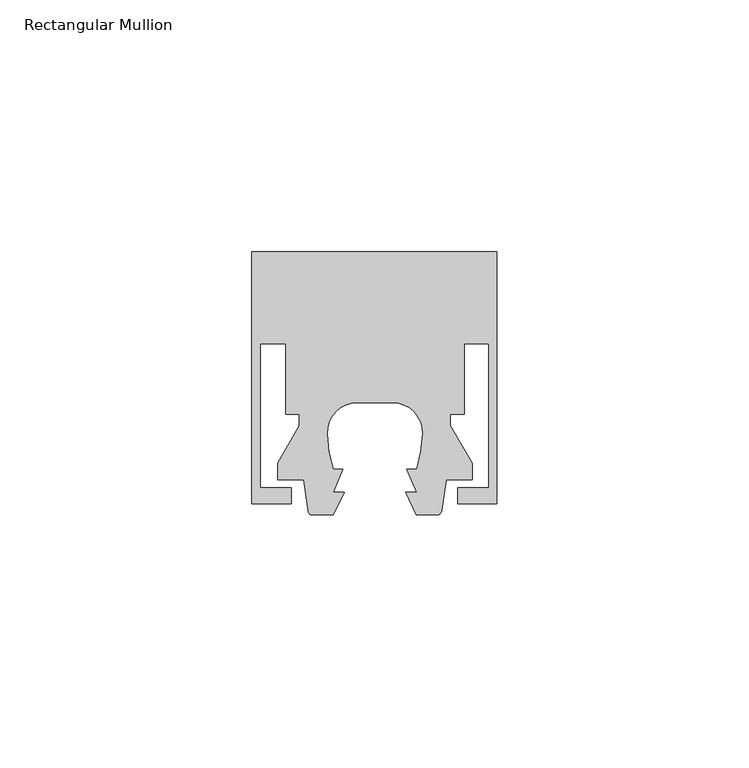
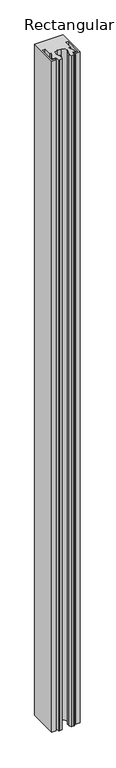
"""IFC4 building model written with IfcOpenShell, lengths in millimetres: member geometry, Rectangular Mullion : Danpal_Airpt."""

from ifc_helpers import new_model, si_unit, point, frame, frame_2d, origin, place, context, project, spatial, polyline, circle_curve, trimmed, segment, composite_curve, outline, extrude, source, transform, mapped, element, save


def rectangular_mullion_e34663cf(model_context):
    return source(origin(), model_context, "Body", "SweptSolid", [
        extrude(outline(composite_curve([segment(polyline([(-16.6, 16.4), (-24.4, 16.4), (-24.4, 66.4), (24.2, 66.4), (24.2, 16.4), (16.4, 16.4), (16.4, 19.6), (22.6, 19.6), (22.6, 48.2), (17.7185077, 48.2), (17.7185077, 34.2), (14.9766663, 34.2), (14.9766663, 31.9202845), (19.2732051, 24.478461), (19.3, 21.2), (14.115585, 21.2)]), True, "CONTINUOUS"), segment(trimmed(circle_curve(frame_2d((-137.1078499, 38.5534788)), 152.215868), [point((14.115585, 21.2))], [point((13.2922905, 15.1127399))], False, "CARTESIAN"), True, "CONTINUOUS"), segment(trimmed(circle_curve(frame_2d((12.2262756, 15.2788845)), 1.0788845), [point((13.2922905, 15.1127399))], [point((12.2262756, 14.2))], False, "CARTESIAN"), True, "CONTINUOUS"), segment(polyline([(12.2262756, 14.2), (8.2308667, 14.2), (6.0782659, 18.7006239), (8.2858815, 18.7006239), (6.3614697, 23.2699289), (8.2778534, 23.2699289)]), True, "CONTINUOUS"), segment(trimmed(circle_curve(frame_2d((-16.4332098, 31.142799)), 25.9348941), [point((8.2778534, 23.2699289))], [point((9.488241, 30.3078647))], True, "CARTESIAN"), True, "CONTINUOUS"), segment(trimmed(circle_curve(frame_2d((3.5093751, 30.500445)), 5.9819667), [point((9.488241, 30.3078647))], [point((3.5093751, 36.4824117))], True, "CARTESIAN"), True, "CONTINUOUS"), segment(polyline([(3.5093751, 36.4824117), (-3.5093751, 36.4824117)]), True, "CONTINUOUS"), segment(trimmed(circle_curve(frame_2d((-3.5093751, 30.500445)), 5.9819667), [point((-3.5093751, 36.4824117))], [point((-9.488241, 30.3078647))], True, "CARTESIAN"), True, "CONTINUOUS"), segment(trimmed(circle_curve(frame_2d((16.4332098, 31.142799)), 25.9348941), [point((-9.488241, 30.3078647))], [point((-8.2778534, 23.2699289))], True, "CARTESIAN"), True, "CONTINUOUS"), segment(polyline([(-8.2778534, 23.2699289), (-6.3614697, 23.2699289), (-8.2858815, 18.7006239), (-6.0782659, 18.7006239), (-8.2308667, 14.2), (-12.3738214, 14.2)]), True, "CONTINUOUS"), segment(trimmed(circle_curve(frame_2d((-12.3738214, 15.1064765)), 0.9064765), [point((-12.3738214, 14.2))], [point((-13.2693482, 14.9660083))], False, "CARTESIAN"), True, "CONTINUOUS"), segment(trimmed(circle_curve(frame_2d((137.1078499, 38.5534788)), 152.215868), [point((-13.2693482, 14.9660083))], [point((-14.115585, 21.2))], False, "CARTESIAN"), True, "CONTINUOUS"), segment(polyline([(-14.115585, 21.2), (-19.3, 21.2), (-19.2732051, 24.478461), (-14.9766663, 31.9202845), (-14.9766663, 34.2), (-17.7185077, 34.2), (-17.7185077, 48.2), (-22.8, 48.2), (-22.8, 19.6), (-16.6, 19.6), (-16.6, 16.4)]), True, "CONTINUOUS")], self_intersect=False)), frame((0.0, 0.0, -1206.8622452), z_axis=(0.0, 0.0, 1.0), x_axis=(1.0, 0.0, 0.0)), (0.0, 0.0, 1.0), 1206.8622452),
    ])


if __name__ == "__main__":
    model = new_model("IFC4")
    model_context = context("Model", 3, world=origin())
    ifc_project = project(units=[si_unit("LENGTHUNIT", "METRE", prefix="MILLI")], contexts=[model_context])
    site = spatial("IfcSite", under=ifc_project)
    building = spatial("IfcBuilding", under=site)
    placement = place(None, origin())
    rectangular_mullion_shape = rectangular_mullion_e34663cf(model_context)
    element("IfcMember", 1, ObjectType="Rectangular Mullion : Danpal_Airpt", at=placement, inside=building, context=model_context, shape_type="MappedRepresentation", body=[
        mapped(rectangular_mullion_shape, transform((0.0, 0.0, 0.0), x_axis=(1.0, 0.0, 0.0), y_axis=(0.0, 1.0, 0.0), z_axis=(0.0, 0.0, 1.0))),
    ])
    save(model, "model.ifc")
